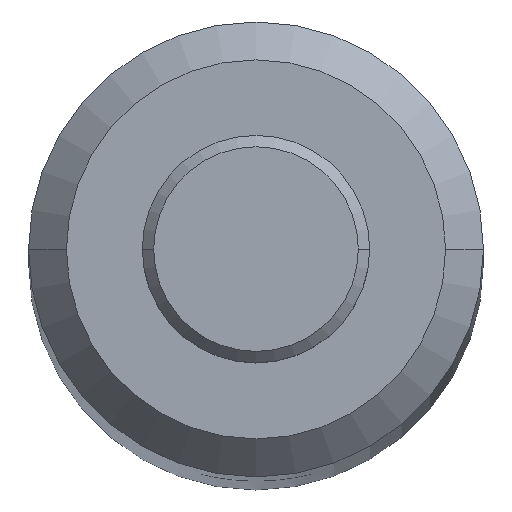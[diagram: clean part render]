
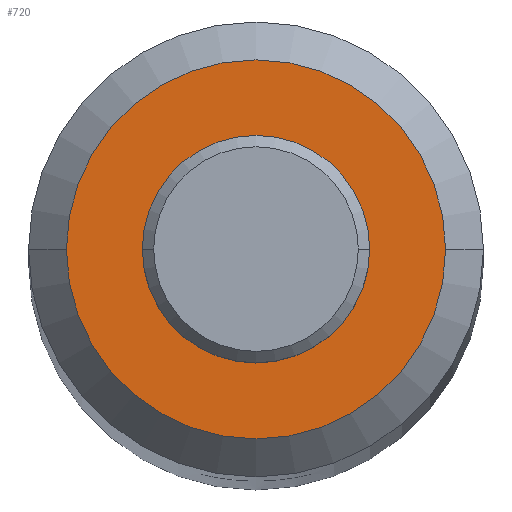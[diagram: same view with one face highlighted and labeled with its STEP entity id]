
A CAD part, top view. The second image highlights one B-rep face of the part: STEP entity #720.
In plain terms, the highlighted planar face has unit normal (0, 0, 1).
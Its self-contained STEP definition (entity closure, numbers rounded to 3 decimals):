
#12 = CARTESIAN_POINT ( 'NONE',  ( 0., 0., 200. ) ) ;
#16 = DIRECTION ( 'NONE',  ( 1., 0., 0. ) ) ;
#27 = DIRECTION ( 'NONE',  ( 0., 0., 1. ) ) ;
#68 = CARTESIAN_POINT ( 'NONE',  ( 0., 0., 200. ) ) ;
#99 = CARTESIAN_POINT ( 'NONE',  ( 5., 0., 200. ) ) ;
#119 = CIRCLE ( 'NONE', #345, 5. ) ;
#122 = ORIENTED_EDGE ( 'NONE', *, *, #740, .F. ) ;
#127 = DIRECTION ( 'NONE',  ( 1., 0., 0. ) ) ;
#146 = FACE_OUTER_BOUND ( 'NONE', #409, .T. ) ;
#187 = ORIENTED_EDGE ( 'NONE', *, *, #273, .F. ) ;
#210 = CIRCLE ( 'NONE', #749, 2.25 ) ;
#237 = CIRCLE ( 'NONE', #633, 5. ) ;
#273 = EDGE_CURVE ( 'NONE', #539, #442, #210, .T. ) ;
#274 = CARTESIAN_POINT ( 'NONE',  ( -2.25, 0., 200. ) ) ;
#286 = CARTESIAN_POINT ( 'NONE',  ( -5., 0., 200. ) ) ;
#289 = FACE_BOUND ( 'NONE', #321, .T. ) ;
#299 = CIRCLE ( 'NONE', #461, 2.25 ) ;
#316 = CARTESIAN_POINT ( 'NONE',  ( 2.25, 0., 200. ) ) ;
#321 = EDGE_LOOP ( 'NONE', ( #187, #122 ) ) ;
#345 = AXIS2_PLACEMENT_3D ( 'NONE', #12, #413, #16 ) ;
#354 = DIRECTION ( 'NONE',  ( 0., 0., 1. ) ) ;
#386 = DIRECTION ( 'NONE',  ( 1., 0., 0. ) ) ;
#409 = EDGE_LOOP ( 'NONE', ( #738, #755 ) ) ;
#413 = DIRECTION ( 'NONE',  ( 0., 0., 1. ) ) ;
#442 = VERTEX_POINT ( 'NONE', #316 ) ;
#461 = AXIS2_PLACEMENT_3D ( 'NONE', #532, #468, #590 ) ;
#468 = DIRECTION ( 'NONE',  ( 0., 0., 1. ) ) ;
#514 = VERTEX_POINT ( 'NONE', #99 ) ;
#532 = CARTESIAN_POINT ( 'NONE',  ( 0., 0., 200. ) ) ;
#538 = CARTESIAN_POINT ( 'NONE',  ( 0., 0., 200. ) ) ;
#539 = VERTEX_POINT ( 'NONE', #274 ) ;
#562 = EDGE_CURVE ( 'NONE', #715, #514, #237, .T. ) ;
#590 = DIRECTION ( 'NONE',  ( 1., 0., 0. ) ) ;
#621 = AXIS2_PLACEMENT_3D ( 'NONE', #68, #354, #127 ) ;
#625 = CARTESIAN_POINT ( 'NONE',  ( 0., 0., 200. ) ) ;
#633 = AXIS2_PLACEMENT_3D ( 'NONE', #625, #750, #386 ) ;
#657 = DIRECTION ( 'NONE',  ( 1., 0., 0. ) ) ;
#706 = PLANE ( 'NONE',  #621 ) ;
#715 = VERTEX_POINT ( 'NONE', #286 ) ;
#720 = ADVANCED_FACE ( 'NONE', ( #146, #289 ), #706, .T. ) ;
#724 = EDGE_CURVE ( 'NONE', #514, #715, #119, .T. ) ;
#738 = ORIENTED_EDGE ( 'NONE', *, *, #562, .T. ) ;
#740 = EDGE_CURVE ( 'NONE', #442, #539, #299, .T. ) ;
#749 = AXIS2_PLACEMENT_3D ( 'NONE', #538, #27, #657 ) ;
#750 = DIRECTION ( 'NONE',  ( 0., 0., 1. ) ) ;
#755 = ORIENTED_EDGE ( 'NONE', *, *, #724, .T. ) ;
